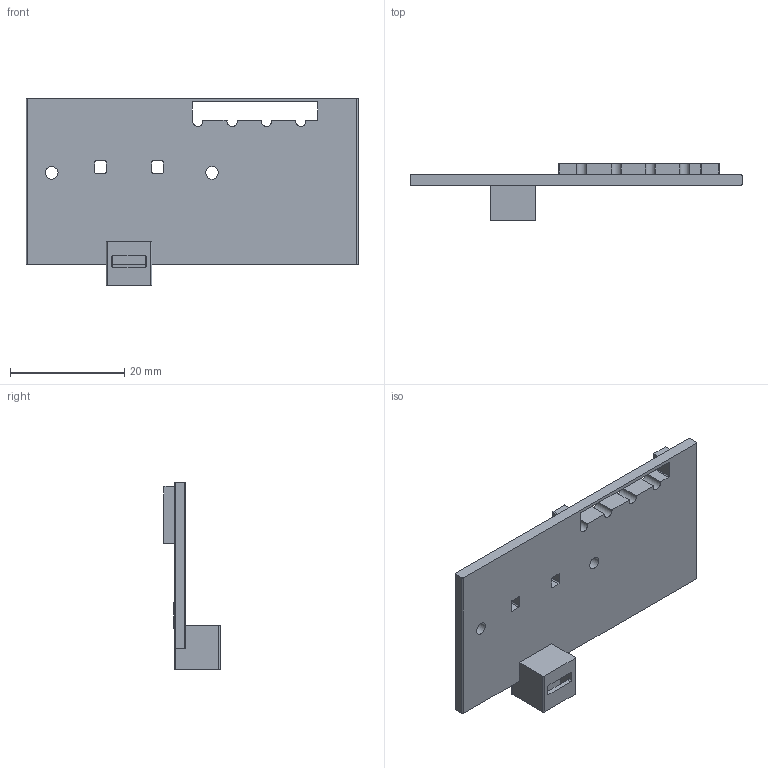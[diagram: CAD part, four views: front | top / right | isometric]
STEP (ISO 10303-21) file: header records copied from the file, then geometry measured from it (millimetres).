
FILE_DESCRIPTION(('FreeCAD Model'),'2;1');
FILE_NAME('Open CASCADE Shape Model','2026-11-13T18:42:37',('FreeCAD'),( 'FreeCAD'),'Open CASCADE STEP processor 7.8','FreeCAD','Unknown');
FILE_SCHEMA(('AUTOMOTIVE_DESIGN { 1 0 10303 214 1 1 1 1 }'));
Length unit declared in the file: millimetre
Products named in the file (1): Open CASCADE STEP translator 7.8 10
Bounding box: 58 x 9.8 x 32.7 mm (x, y, z)
Volume: 3696.7 mm3; surface area: 4344.2 mm2
Topology: 1 solids, 1 shells, 96 faces, 281 edges, 190 vertices
Faces by surface type: plane 48, cylinder 48
Full cylindrical faces by diameter (mm): 2 x2, 2.2 x2, 5.2 x2
Entity records: 3289 total; most frequent: CARTESIAN_POINT 596, DIRECTION 573, ORIENTED_EDGE 562, EDGE_CURVE 281, AXIS2_PLACEMENT_3D 199, VERTEX_POINT 190, LINE 175, VECTOR 175
